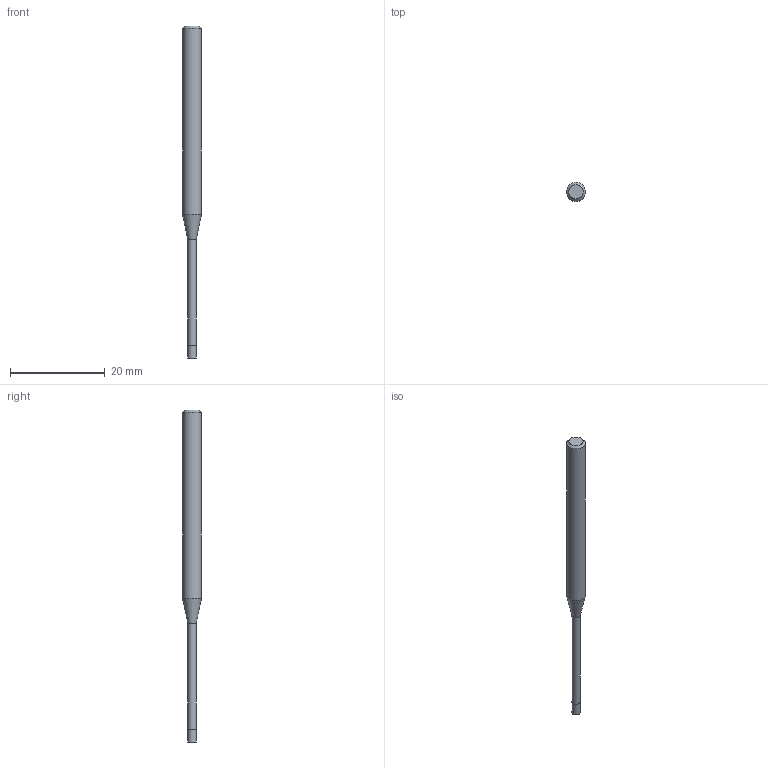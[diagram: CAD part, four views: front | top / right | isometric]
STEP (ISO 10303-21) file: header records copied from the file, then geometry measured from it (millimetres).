
FILE_DESCRIPTION((''),'2;1');
FILE_NAME('C:\Users\nsx150\AppData\Local\Temp\Mastercam 2021\17T8Q8S9EB\TEMP.step','2021-04-21T14:27:31',(''),(''),'STEP Write','Mastercam 2021 ... CNC Software, Inc.','');
FILE_SCHEMA(('AUTOMOTIVE_DESIGN'));
Length unit declared in the file: millimetre
Products named in the file (1): None
Bounding box: 4 x 4 x 70 mm (x, y, z)
Volume: 594.2 mm3; surface area: 701.8 mm2
Topology: 2 solids, 2 shells, 9 faces, 12 edges, 7 vertices
Faces by surface type: plane 4, cylinder 3, cone 2
Full cylindrical faces by diameter (mm): 1.75 x1, 1.8 x1, 4 x1
Entity records: 211 total; most frequent: DIRECTION 36, CARTESIAN_POINT 25, AXIS2_PLACEMENT_3D 18, ORIENTED_EDGE 14, EDGE_LOOP 14, STYLED_ITEM 12, ADVANCED_FACE 9, FACE_BOUND 8
